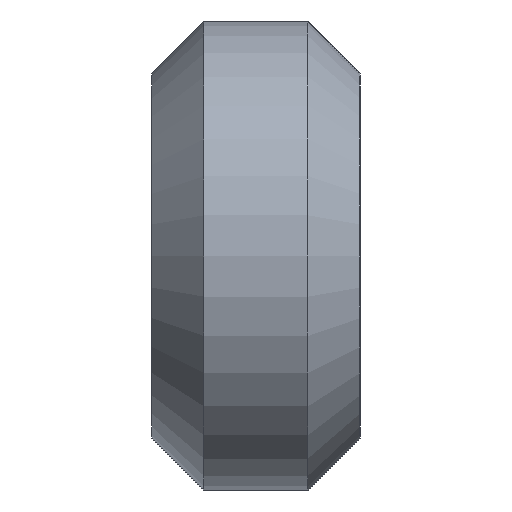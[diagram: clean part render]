
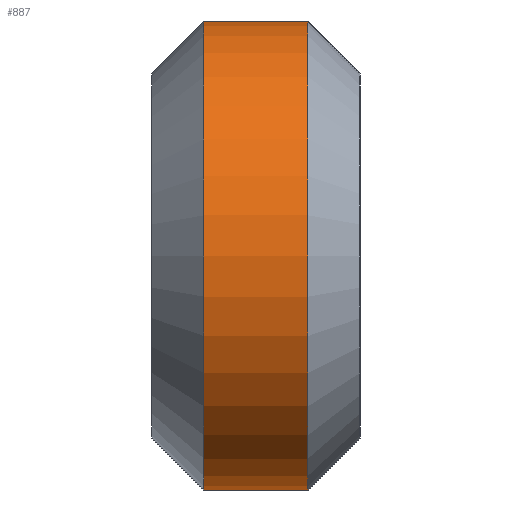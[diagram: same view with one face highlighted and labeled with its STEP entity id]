
A CAD part, left-side view. The second image highlights one B-rep face of the part: STEP entity #887.
In plain terms, the highlighted cylindrical face has radius 4.5 mm (diameter 9 mm), a partial arc.
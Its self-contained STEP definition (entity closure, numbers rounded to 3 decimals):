
#714 = CONICAL_SURFACE('',#715,3.5,0.785);
#715 = AXIS2_PLACEMENT_3D('',#716,#717,#718);
#716 = CARTESIAN_POINT('',(-15.663,4.,-1.305));
#717 = DIRECTION('',(0.,-1.,0.));
#718 = DIRECTION('',(0.,0.,-1.));
#872 = CONICAL_SURFACE('',#873,4.5,0.785);
#873 = AXIS2_PLACEMENT_3D('',#874,#875,#876);
#874 = CARTESIAN_POINT('',(-15.663,1.,-1.305));
#875 = DIRECTION('',(-0.,1.,-0.));
#876 = DIRECTION('',(0.,0.,1.));
#887 = ADVANCED_FACE('',(#888),#902,.T.);
#888 = FACE_BOUND('',#889,.T.);
#889 = EDGE_LOOP('',(#890,#925,#949,#977));
#890 = ORIENTED_EDGE('',*,*,#891,.F.);
#891 = EDGE_CURVE('',#892,#894,#896,.T.);
#892 = VERTEX_POINT('',#893);
#893 = CARTESIAN_POINT('',(-15.663,3.,3.195));
#894 = VERTEX_POINT('',#895);
#895 = CARTESIAN_POINT('',(-15.663,1.,3.195));
#896 = SURFACE_CURVE('',#897,(#901,#913),.PCURVE_S1.);
#897 = LINE('',#898,#899);
#898 = CARTESIAN_POINT('',(-15.663,4.,3.195));
#899 = VECTOR('',#900,1.);
#900 = DIRECTION('',(-0.,-1.,-0.));
#901 = PCURVE('',#902,#907);
#902 = CYLINDRICAL_SURFACE('',#903,4.5);
#903 = AXIS2_PLACEMENT_3D('',#904,#905,#906);
#904 = CARTESIAN_POINT('',(-15.663,4.,-1.305));
#905 = DIRECTION('',(-0.,-1.,-0.));
#906 = DIRECTION('',(0.,0.,-1.));
#907 = DEFINITIONAL_REPRESENTATION('',(#908),#912);
#908 = LINE('',#909,#910);
#909 = CARTESIAN_POINT('',(3.142,0.));
#910 = VECTOR('',#911,1.);
#911 = DIRECTION('',(0.,1.));
#912 = ( GEOMETRIC_REPRESENTATION_CONTEXT(2) 
PARAMETRIC_REPRESENTATION_CONTEXT() REPRESENTATION_CONTEXT('2D SPACE',''
  ) );
#913 = PCURVE('',#914,#919);
#914 = PLANE('',#915);
#915 = AXIS2_PLACEMENT_3D('',#916,#917,#918);
#916 = CARTESIAN_POINT('',(11.337,4.,3.195));
#917 = DIRECTION('',(0.,0.,-1.));
#918 = DIRECTION('',(-1.,0.,-0.));
#919 = DEFINITIONAL_REPRESENTATION('',(#920),#924);
#920 = LINE('',#921,#922);
#921 = CARTESIAN_POINT('',(27.,0.));
#922 = VECTOR('',#923,1.);
#923 = DIRECTION('',(0.,-1.));
#924 = ( GEOMETRIC_REPRESENTATION_CONTEXT(2) 
PARAMETRIC_REPRESENTATION_CONTEXT() REPRESENTATION_CONTEXT('2D SPACE',''
  ) );
#925 = ORIENTED_EDGE('',*,*,#926,.T.);
#926 = EDGE_CURVE('',#892,#927,#929,.T.);
#927 = VERTEX_POINT('',#928);
#928 = CARTESIAN_POINT('',(-15.663,3.,-5.805));
#929 = SURFACE_CURVE('',#930,(#935,#942),.PCURVE_S1.);
#930 = CIRCLE('',#931,4.5);
#931 = AXIS2_PLACEMENT_3D('',#932,#933,#934);
#932 = CARTESIAN_POINT('',(-15.663,3.,-1.305));
#933 = DIRECTION('',(0.,-1.,0.));
#934 = DIRECTION('',(0.,0.,1.));
#935 = PCURVE('',#902,#936);
#936 = DEFINITIONAL_REPRESENTATION('',(#937),#941);
#937 = LINE('',#938,#939);
#938 = CARTESIAN_POINT('',(3.142,1.));
#939 = VECTOR('',#940,1.);
#940 = DIRECTION('',(1.,0.));
#941 = ( GEOMETRIC_REPRESENTATION_CONTEXT(2) 
PARAMETRIC_REPRESENTATION_CONTEXT() REPRESENTATION_CONTEXT('2D SPACE',''
  ) );
#942 = PCURVE('',#714,#943);
#943 = DEFINITIONAL_REPRESENTATION('',(#944),#948);
#944 = LINE('',#945,#946);
#945 = CARTESIAN_POINT('',(3.142,1.));
#946 = VECTOR('',#947,1.);
#947 = DIRECTION('',(1.,0.));
#948 = ( GEOMETRIC_REPRESENTATION_CONTEXT(2) 
PARAMETRIC_REPRESENTATION_CONTEXT() REPRESENTATION_CONTEXT('2D SPACE',''
  ) );
#949 = ORIENTED_EDGE('',*,*,#950,.T.);
#950 = EDGE_CURVE('',#927,#951,#953,.T.);
#951 = VERTEX_POINT('',#952);
#952 = CARTESIAN_POINT('',(-15.663,1.,-5.805));
#953 = SURFACE_CURVE('',#954,(#958,#965),.PCURVE_S1.);
#954 = LINE('',#955,#956);
#955 = CARTESIAN_POINT('',(-15.663,4.,-5.805));
#956 = VECTOR('',#957,1.);
#957 = DIRECTION('',(-0.,-1.,-0.));
#958 = PCURVE('',#902,#959);
#959 = DEFINITIONAL_REPRESENTATION('',(#960),#964);
#960 = LINE('',#961,#962);
#961 = CARTESIAN_POINT('',(6.283,0.));
#962 = VECTOR('',#963,1.);
#963 = DIRECTION('',(0.,1.));
#964 = ( GEOMETRIC_REPRESENTATION_CONTEXT(2) 
PARAMETRIC_REPRESENTATION_CONTEXT() REPRESENTATION_CONTEXT('2D SPACE',''
  ) );
#965 = PCURVE('',#966,#971);
#966 = PLANE('',#967);
#967 = AXIS2_PLACEMENT_3D('',#968,#969,#970);
#968 = CARTESIAN_POINT('',(-15.663,4.,-5.805));
#969 = DIRECTION('',(0.,0.,1.));
#970 = DIRECTION('',(1.,0.,-0.));
#971 = DEFINITIONAL_REPRESENTATION('',(#972),#976);
#972 = LINE('',#973,#974);
#973 = CARTESIAN_POINT('',(0.,0.));
#974 = VECTOR('',#975,1.);
#975 = DIRECTION('',(0.,-1.));
#976 = ( GEOMETRIC_REPRESENTATION_CONTEXT(2) 
PARAMETRIC_REPRESENTATION_CONTEXT() REPRESENTATION_CONTEXT('2D SPACE',''
  ) );
#977 = ORIENTED_EDGE('',*,*,#978,.T.);
#978 = EDGE_CURVE('',#951,#894,#979,.T.);
#979 = SURFACE_CURVE('',#980,(#985,#992),.PCURVE_S1.);
#980 = CIRCLE('',#981,4.5);
#981 = AXIS2_PLACEMENT_3D('',#982,#983,#984);
#982 = CARTESIAN_POINT('',(-15.663,1.,-1.305));
#983 = DIRECTION('',(-0.,1.,0.));
#984 = DIRECTION('',(0.,0.,1.));
#985 = PCURVE('',#902,#986);
#986 = DEFINITIONAL_REPRESENTATION('',(#987),#991);
#987 = LINE('',#988,#989);
#988 = CARTESIAN_POINT('',(9.425,3.));
#989 = VECTOR('',#990,1.);
#990 = DIRECTION('',(-1.,0.));
#991 = ( GEOMETRIC_REPRESENTATION_CONTEXT(2) 
PARAMETRIC_REPRESENTATION_CONTEXT() REPRESENTATION_CONTEXT('2D SPACE',''
  ) );
#992 = PCURVE('',#872,#993);
#993 = DEFINITIONAL_REPRESENTATION('',(#994),#998);
#994 = LINE('',#995,#996);
#995 = CARTESIAN_POINT('',(0.,0.));
#996 = VECTOR('',#997,1.);
#997 = DIRECTION('',(1.,0.));
#998 = ( GEOMETRIC_REPRESENTATION_CONTEXT(2) 
PARAMETRIC_REPRESENTATION_CONTEXT() REPRESENTATION_CONTEXT('2D SPACE',''
  ) );
